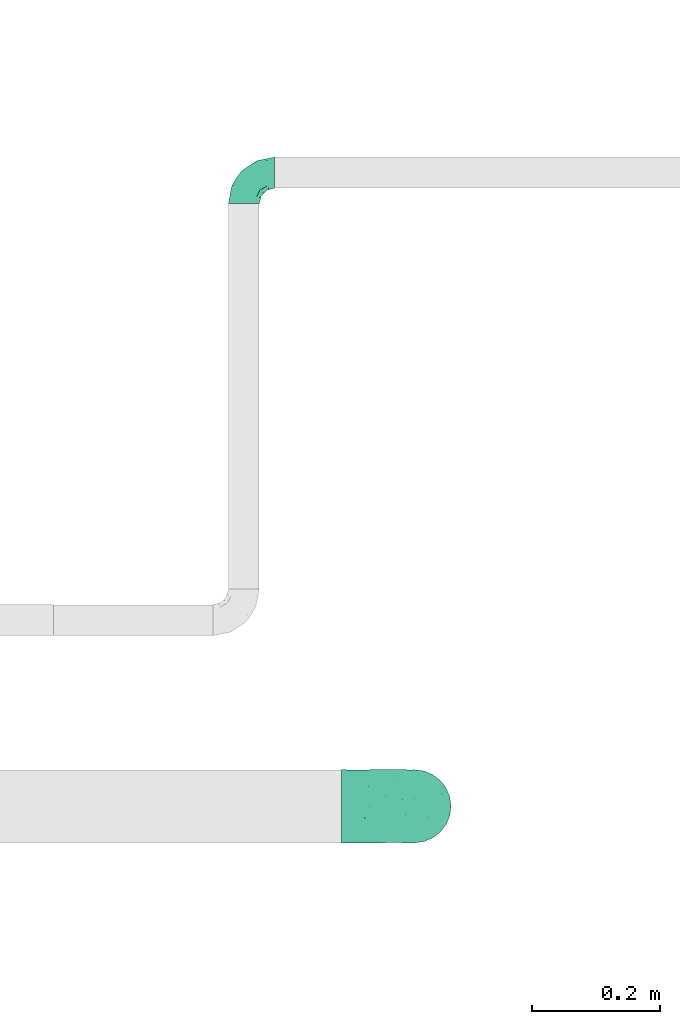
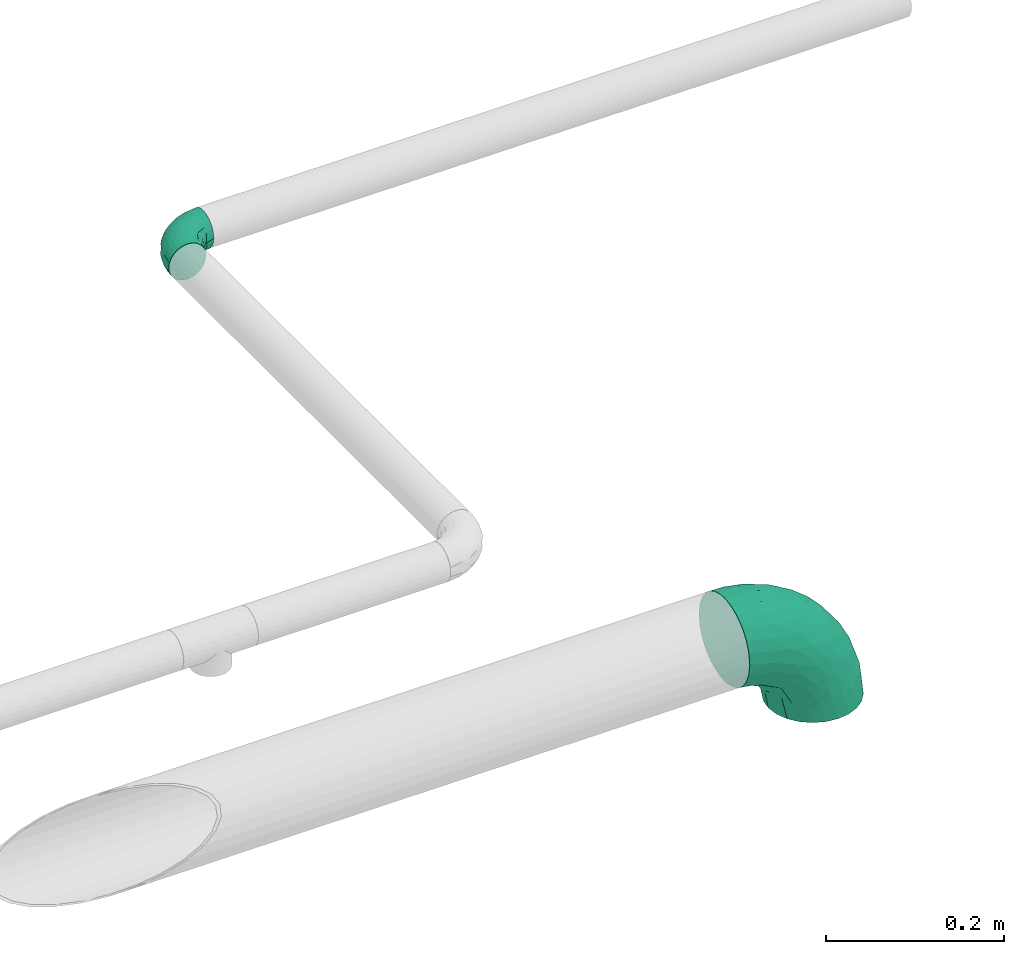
# One storey, part 6 of 94: 2 flow fittings.
"""IFC2X3 building model written with IfcOpenShell, lengths in millimetres."""

from ifc_helpers import new_model, entity, si_unit, converted_unit, derived_unit, direction, frame, origin_with_axes, place, context, subcontext, project, spatial, open_shell, surface_model, source, transform, mapped, type_object, element, save


model = new_model("IFC2X3")

# Units and contexts
model_context = context("Model", 3, precision=0.01, world=frame((0.0, 4.29681676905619e-09, 0.0)), true_north=direction((4.01073788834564e-13, 1.0)))
plan_context = context("Plan", 3, precision=0.01, world=frame((0.0, 4.29681676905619e-09, 0.0)), true_north=direction((4.01073788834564e-13, 1.0)))
body_context = subcontext(model_context, "Body", "Model", "MODEL_VIEW")
ifc_project = project(units=[converted_unit("PLANEANGLEUNIT", "DEGREE", entity("IfcPositiveLengthMeasure", 0.0174532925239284), si_unit("PLANEANGLEUNIT", "RADIAN"), dimensions=[0, 0, 0, 0, 0, 0, 0]), si_unit("AREAUNIT", "SQUARE_METRE"), si_unit("LENGTHUNIT", "METRE", prefix="MILLI"), si_unit("MASSUNIT", "GRAM", prefix="KILO"), si_unit("POWERUNIT", "WATT"), si_unit("PRESSUREUNIT", "PASCAL"), si_unit("FORCEUNIT", "NEWTON", prefix="KILO"), si_unit("ELECTRICCURRENTUNIT", "AMPERE"), si_unit("THERMODYNAMICTEMPERATUREUNIT", "DEGREE_CELSIUS"), si_unit("TIMEUNIT", "SECOND"), si_unit("VOLUMEUNIT", "CUBIC_METRE"), derived_unit("LINEARVELOCITYUNIT", [(si_unit("LENGTHUNIT", "METRE"), 1), (si_unit("TIMEUNIT", "SECOND"), -1)]), derived_unit("VOLUMETRICFLOWRATEUNIT", [(si_unit("VOLUMEUNIT", "CUBIC_METRE"), 1), (si_unit("TIMEUNIT", "SECOND"), -1)]), derived_unit("THERMALTRANSMITTANCEUNIT", [(si_unit("POWERUNIT", "WATT"), 1), (si_unit("THERMODYNAMICTEMPERATUREUNIT", "KELVIN"), -1), (si_unit("AREAUNIT", "SQUARE_METRE"), -1)])], contexts=[model_context, plan_context])

# Site, building, storey
site_placement = place(None, frame((0.0, -4.29681676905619e-09, 0.0), z_axis=(0.0, 0.0, 1.0), x_axis=(1.0, 0.0, 0.0)))
site = spatial("IfcSite", under=ifc_project, at=site_placement, CompositionType="ELEMENT")
building_placement = place(site_placement, frame((0.0, 4.29681676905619e-09, 0.0), z_axis=(0.0, 0.0, 1.0), x_axis=(1.0, 0.0, 0.0)))
building = spatial("IfcBuilding", under=site, at=building_placement, Name="mc-building", CompositionType="ELEMENT")
storey_placement = place(building_placement, frame((0.0, 0.0, 200300.0), z_axis=(0.0, 0.0, 1.0), x_axis=(1.0, 0.0, 0.0)))
storey = spatial("IfcBuildingStorey", under=building, at=storey_placement, Name="Nivå C", CompositionType="ELEMENT", Elevation=200300.0)

# Flow fittings
pipe_fitting_type = type_object("IfcPipeFittingType", Name="magi_pipe_fe_elbow_short_001", PredefinedType="BEND")
shared_shape_1 = source(origin_with_axes(), body_context, "Body", "SurfaceModel", [
    surface_model("IfcShellBasedSurfaceModel", [(-48.4, 6.26342, -23.37541), (-48.4, 0.0, -24.2), (-48.4, 17.11198, -17.11198), (-48.4, 12.1, -20.95781), (-48.4, 23.37541, -6.26342), (-48.4, 20.95781, -12.1), (-48.4, -12.1, -20.95781), (-48.4, -17.11198, -17.11198), (-48.4, -20.95781, -12.1), (-48.4, -6.26342, -23.37541), (-48.4, -23.37541, -6.26342), (-48.4, -24.2, 0.0), (-48.4, -23.37541, 6.26342), (-48.4, 23.37541, 6.26342), (-48.4, 6.26342, 23.37541), (-48.4, 20.95781, 12.1), (-48.4, 17.11198, 17.11198), (-48.4, 12.1, 20.95781), (-48.4, -12.1, 20.95781), (-48.4, -20.95781, 12.1), (-48.4, -17.11198, 17.11198), (-48.4, -6.26342, 23.37541), (-48.4, 0.0, 24.2), (-48.4, 24.2, 0.0), (-17.11198, 48.4, -17.11198), (0.0, 48.4, -24.2), (-6.26342, 48.4, -23.37541), (-12.1, 48.4, -20.95781), (-20.95781, 48.4, -12.1), (-23.37541, 48.4, -6.26342), (12.1, 48.4, -20.95781), (20.95781, 48.4, -12.1), (17.11198, 48.4, -17.11198), (6.26342, 48.4, -23.37541), (23.37541, 48.4, -6.26342), (23.37541, 48.4, 6.26342), (24.2, 48.4, 0.0), (-23.37541, 48.4, 6.26342), (-6.26342, 48.4, 23.37541), (-17.11198, 48.4, 17.11198), (-20.95781, 48.4, 12.1), (-12.1, 48.4, 20.95781), (12.1, 48.4, 20.95781), (17.11198, 48.4, 17.11198), (20.95781, 48.4, 12.1), (0.0, 48.4, 24.2), (6.26342, 48.4, 23.37541), (-24.2, 48.4, 0.0), (-35.50368, -18.80076, 13.58523), (-31.77913, -13.9618, 18.03279), (-34.50859, -21.43683, 0.0), (-21.39243, -15.41147, 12.21413), (-32.16301, -21.12203, 7.54749), (21.12203, 32.16301, 7.54749), (17.07617, 18.95745, 6.20374), (18.67365, 20.61718, 0.0), (-23.65565, 38.62451, 10.51816), (-20.21592, 37.67665, 15.89859), (-35.56981, -9.15108, 21.77256), (-36.96985, -3.20584, 23.78612), (-33.88786, 3.70953, 24.15875), (-8.84062, -10.8048, 0.0), (-18.95745, -17.07617, 6.20374), (-20.61718, -18.67365, 0.0), (-18.69715, -5.87343, 20.10488), (-24.09336, -0.21717, 23.45593), (-2.08262, -4.09091, 10.90396), (-0.40561, 0.49936, 14.45569), (-8.22634, -5.79523, 14.90978), (-37.83027, 20.17367, 15.88169), (-8.41063, 23.79825, 24.15658), (-17.92529, 17.92529, 23.61199), (-14.40991, 10.5752, 24.07534), (-41.86919, 14.6551, 19.71874), (-9.03342, 41.7434, 22.66763), (-3.31671, 36.19978, 24.14056), (-38.63654, 23.65174, 10.51655), (-38.25939, 25.77657, 5.32075), (-30.0475, 30.0475, 9.04616), (-37.30448, 9.49113, 22.86036), (-6.31688, 16.20853, 23.76192), (-12.02449, 4.43954, 22.59792), (-2.47225, 13.07459, 22.23951), (-4.32281, 4.32281, 19.78555), (13.9618, 31.77913, 18.03279), (15.41147, 21.39243, 12.21413), (18.80076, 35.50367, 13.58523), (-25.72741, 16.42033, 22.38358), (-26.59277, 10.36599, 23.76692), (3.20584, 36.96985, 23.78612), (9.15107, 35.56981, 21.77256), (5.87343, 18.69715, 20.10488), (21.43683, 34.50859, 0.0), (-23.74657, 5.93004, 24.18967), (-22.40302, 25.55556, 19.88516), (-33.3245, 16.42738, 20.3789), (-25.47357, 39.04012, 5.19167), (-30.32947, 31.74105, 4.25904), (11.04589, 19.60124, 16.55181), (-27.44219, 36.3, 0.0), (-10.46605, 32.79159, 23.04712), (-13.80953, 25.05111, 23.26361), (-17.54489, 31.27863, 20.33941), (-19.27982, 23.42922, 22.01925), (-14.78447, 40.57947, 19.81913), (-19.60124, -11.04589, 16.55181), (-25.09785, 32.07921, 13.69695), (-25.5093, 27.02629, 17.14196), (-31.08127, 26.00324, 13.49448), (0.21717, 24.09336, 23.45593), (5.51075, 8.40547, 15.32867), (-11.48597, -10.80284, 11.35932), (1.43689, -3.14326, 6.54995), (7.34882, 4.31024, 8.4514), (7.50574, 2.51208, 3.62663), (12.46453, 10.09451, 5.71609), (12.1504, 12.55391, 10.15678), (-36.3, 27.44219, 0.0), (-6.52237, -9.62364, 7.02633), (2.93595, -2.93595, 0.0), (10.8048, 8.84062, 0.0), (-19.60124, -11.04589, -16.55181), (-31.77913, -13.9618, -18.03279), (-18.69715, -5.87343, -20.10488), (-21.39243, -15.41147, -12.21413), (-37.67665, 20.21591, -15.89859), (-40.57947, 14.78447, -19.81913), (-39.04012, 25.47357, -5.19167), (-32.16301, -21.12203, -7.54749), (-30.0475, 30.0475, -9.04616), (-38.62452, 23.65565, -10.51816), (-18.95745, -17.07617, -6.20374), (-23.42922, 19.27982, -22.01926), (-25.05111, 13.80953, -23.26361), (-31.27863, 17.54489, -20.33941), (-14.6551, 41.86919, -19.71874), (-20.17367, 37.83026, -15.88169), (9.15108, 35.56981, -21.77256), (5.87343, 18.69715, -20.10488), (0.21717, 24.09336, -23.45593), (-41.7434, 9.03342, -22.66763), (-35.50368, -18.80076, -13.58523), (-35.56981, -9.15108, -21.77256), (-16.42033, 25.72741, -22.38358), (-9.49113, 37.30447, -22.86036), (-10.36599, 26.59277, -23.76692), (-36.96985, -3.20584, -23.78612), (-23.79826, 8.41063, -24.15658), (-17.92529, 17.92529, -23.61199), (-10.5752, 14.40991, -24.07534), (-36.19978, 3.31671, -24.14056), (-25.77657, 38.25939, -5.32075), (-23.65174, 38.63654, -10.51655), (-32.79159, 10.46605, -23.04712), (-31.74105, 30.32946, -4.25904), (-5.93004, 23.74657, -24.18967), (-25.55556, 22.40302, -19.88516), (-16.42738, 33.3245, -20.3789), (3.20584, 36.96985, -23.78612), (-3.70953, 33.88785, -24.15875), (18.80076, 35.50367, -13.58523), (13.9618, 31.77913, -18.03279), (7.50574, 2.51208, -3.62663), (12.46453, 10.09451, -5.71609), (-16.20853, 6.31688, -23.76192), (-4.43954, 12.02449, -22.59792), (-13.07459, 2.47225, -22.23951), (1.43689, -3.14326, -6.54995), (-6.52237, -9.62364, -7.02632), (-2.08262, -4.09091, -10.90396), (15.41147, 21.39243, -12.21413), (21.12203, 32.16301, -7.54749), (17.07617, 18.95745, -6.20374), (-32.07921, 25.09785, -13.69695), (11.04589, 19.60124, -16.55181), (12.1504, 12.55391, -10.15678), (5.51075, 8.40547, -15.32867), (-27.02629, 25.5093, -17.14196), (-26.00324, 31.08127, -13.49448), (-24.09336, -0.21717, -23.45593), (-4.32281, 4.32281, -19.78555), (-8.22634, -5.79524, -14.90978), (-11.48597, -10.80284, -11.35931), (-0.40561, 0.49936, -14.45569), (7.34882, 4.31024, -8.4514)], [open_shell([[[0, 1, 2]], [[3, 0, 2]], [[4, 5, 2]], [[6, 2, 1]], [[4, 2, 6]], [[7, 8, 6]], [[1, 9, 6]], [[8, 10, 6]], [[6, 10, 4]], [[11, 12, 10]], [[13, 4, 10]], [[14, 13, 10]], [[15, 13, 16]], [[13, 14, 17]], [[16, 13, 17]], [[10, 18, 14]], [[19, 20, 12]], [[20, 10, 12]], [[21, 22, 18]], [[20, 18, 10]], [[18, 22, 14]], [[23, 4, 13]], [[24, 25, 26]], [[24, 26, 27]], [[24, 28, 29]], [[25, 24, 30]], [[30, 24, 29]], [[30, 31, 32]], [[30, 33, 25]], [[30, 34, 31]], [[29, 34, 30]], [[34, 35, 36]], [[34, 29, 37]], [[34, 37, 38]], [[39, 37, 40]], [[41, 38, 37]], [[41, 37, 39]], [[38, 42, 34]], [[35, 43, 44]], [[35, 34, 43]], [[42, 45, 46]], [[34, 42, 43]], [[38, 45, 42]], [[37, 29, 47]], [[20, 48, 49]], [[12, 11, 50]], [[51, 48, 52]], [[53, 54, 55]], [[48, 20, 19]], [[12, 52, 19]], [[40, 56, 57]], [[49, 18, 20]], [[49, 58, 18]], [[22, 59, 60]], [[61, 62, 63]], [[58, 64, 65]], [[66, 67, 68]], [[15, 16, 69]], [[70, 71, 72]], [[17, 73, 16]], [[21, 59, 22]], [[38, 74, 75]], [[22, 60, 14]], [[15, 69, 76]], [[16, 73, 69]], [[23, 13, 77]], [[13, 15, 76]], [[77, 76, 78]], [[14, 79, 17]], [[80, 81, 82]], [[68, 83, 64]], [[84, 43, 42]], [[85, 86, 84]], [[87, 79, 88]], [[18, 58, 21]], [[45, 89, 46]], [[53, 35, 44]], [[45, 38, 75]], [[84, 90, 91]], [[44, 86, 53]], [[92, 35, 53]], [[86, 44, 43]], [[90, 42, 46]], [[53, 55, 92]], [[88, 93, 72]], [[54, 53, 85]], [[87, 94, 95]], [[78, 96, 97]], [[98, 84, 91]], [[99, 96, 47]], [[79, 14, 60]], [[96, 78, 56]], [[62, 52, 63]], [[57, 39, 40]], [[100, 70, 75]], [[101, 102, 103]], [[12, 50, 52]], [[104, 41, 39]], [[74, 38, 41]], [[57, 102, 104]], [[105, 64, 49]], [[90, 84, 42]], [[40, 37, 56]], [[56, 106, 57]], [[102, 57, 107]], [[95, 107, 69]], [[76, 108, 78]], [[100, 101, 70]], [[89, 75, 109]], [[64, 58, 49]], [[63, 52, 50]], [[59, 58, 65]], [[105, 49, 51]], [[64, 83, 81]], [[89, 90, 46]], [[36, 35, 92]], [[109, 82, 91]], [[109, 91, 90]], [[91, 83, 110]], [[111, 68, 105]], [[66, 68, 111]], [[62, 51, 52]], [[66, 112, 113]], [[114, 115, 113]], [[98, 85, 84]], [[52, 48, 19]], [[49, 48, 51]], [[84, 86, 43]], [[53, 86, 85]], [[88, 79, 60]], [[73, 79, 95]], [[96, 56, 37]], [[78, 108, 106]], [[87, 103, 94]], [[100, 74, 104]], [[108, 69, 107]], [[78, 97, 77]], [[88, 72, 71]], [[109, 75, 70]], [[81, 72, 65]], [[70, 72, 80]], [[75, 89, 45]], [[90, 89, 109]], [[58, 59, 21]], [[60, 59, 65]], [[67, 83, 68]], [[110, 113, 116]], [[88, 60, 93]], [[87, 88, 71]], [[103, 87, 71]], [[79, 87, 95]], [[101, 103, 71]], [[94, 103, 102]], [[47, 96, 37]], [[96, 99, 97]], [[99, 117, 97]], [[97, 117, 77]], [[23, 77, 117]], [[13, 76, 77]], [[60, 65, 93]], [[65, 72, 93]], [[70, 101, 71]], [[102, 101, 100]], [[69, 108, 76]], [[106, 108, 107]], [[57, 106, 107]], [[78, 106, 56]], [[57, 104, 39]], [[100, 104, 102]], [[102, 107, 94]], [[95, 94, 107]], [[64, 81, 65]], [[82, 81, 83]], [[91, 82, 83]], [[80, 82, 109]], [[70, 80, 109]], [[81, 80, 72]], [[79, 73, 17]], [[69, 73, 95]], [[104, 74, 41]], [[75, 74, 100]], [[62, 61, 118]], [[111, 62, 118]], [[113, 115, 116]], [[119, 118, 61]], [[111, 105, 51]], [[113, 112, 114]], [[120, 55, 54]], [[68, 64, 105]], [[91, 110, 98]], [[116, 98, 110]], [[62, 111, 51]], [[66, 111, 118]], [[112, 66, 118]], [[67, 113, 110]], [[118, 119, 112]], [[114, 112, 119]], [[119, 120, 114]], [[115, 120, 54]], [[120, 115, 114]], [[116, 54, 85]], [[54, 116, 115]], [[116, 85, 98]], [[113, 67, 66]], [[83, 67, 110]], [[121, 122, 123]], [[122, 121, 124]], [[5, 125, 2]], [[2, 126, 3]], [[117, 127, 23]], [[50, 10, 128]], [[127, 129, 130]], [[128, 131, 63]], [[132, 133, 134]], [[24, 135, 136]], [[137, 138, 139]], [[3, 140, 0]], [[128, 8, 141]], [[142, 6, 9]], [[128, 63, 50]], [[5, 4, 130]], [[8, 7, 141]], [[143, 144, 145]], [[146, 9, 1]], [[147, 148, 149]], [[8, 128, 10]], [[124, 141, 122]], [[150, 1, 0]], [[151, 152, 129]], [[125, 134, 126]], [[153, 147, 150]], [[127, 154, 129]], [[145, 155, 149]], [[47, 29, 151]], [[143, 156, 157]], [[152, 29, 28]], [[25, 158, 159]], [[122, 7, 6]], [[24, 27, 135]], [[144, 27, 26]], [[32, 160, 161]], [[25, 33, 158]], [[120, 162, 163]], [[130, 125, 5]], [[24, 136, 28]], [[0, 140, 150]], [[30, 161, 137]], [[142, 122, 6]], [[25, 159, 26]], [[164, 165, 166]], [[167, 168, 169]], [[31, 160, 32]], [[161, 30, 32]], [[170, 160, 171]], [[131, 128, 124]], [[36, 92, 34]], [[34, 92, 171]], [[172, 171, 55]], [[34, 171, 31]], [[144, 26, 159]], [[130, 173, 125]], [[174, 175, 176]], [[136, 152, 28]], [[30, 137, 33]], [[122, 142, 123]], [[134, 125, 177]], [[157, 177, 136]], [[152, 178, 129]], [[153, 133, 147]], [[146, 150, 179]], [[146, 142, 9]], [[11, 10, 50]], [[179, 166, 123]], [[179, 123, 142]], [[123, 180, 181]], [[138, 137, 161]], [[55, 171, 92]], [[158, 137, 139]], [[174, 161, 170]], [[138, 180, 165]], [[180, 138, 176]], [[124, 121, 182]], [[176, 183, 180]], [[61, 131, 168]], [[169, 168, 182]], [[172, 170, 171]], [[122, 141, 7]], [[128, 141, 124]], [[171, 160, 31]], [[161, 160, 170]], [[145, 144, 159]], [[135, 144, 157]], [[127, 130, 4]], [[129, 178, 173]], [[143, 132, 156]], [[153, 140, 126]], [[178, 136, 177]], [[129, 154, 151]], [[145, 149, 148]], [[179, 150, 147]], [[165, 149, 139]], [[147, 149, 164]], [[150, 146, 1]], [[142, 146, 179]], [[137, 158, 33]], [[159, 158, 139]], [[174, 138, 161]], [[184, 169, 183]], [[145, 159, 155]], [[143, 145, 148]], [[132, 143, 148]], [[144, 143, 157]], [[133, 132, 148]], [[156, 132, 134]], [[23, 127, 4]], [[127, 117, 154]], [[117, 99, 154]], [[154, 99, 151]], [[47, 151, 99]], [[29, 152, 151]], [[159, 139, 155]], [[139, 149, 155]], [[147, 133, 148]], [[134, 133, 153]], [[136, 178, 152]], [[173, 178, 177]], [[125, 173, 177]], [[129, 173, 130]], [[125, 126, 2]], [[153, 126, 134]], [[134, 177, 156]], [[157, 156, 177]], [[138, 165, 139]], [[166, 165, 180]], [[123, 166, 180]], [[164, 166, 179]], [[147, 164, 179]], [[165, 164, 149]], [[144, 135, 27]], [[136, 135, 157]], [[126, 140, 3]], [[150, 140, 153]], [[182, 131, 124]], [[168, 119, 61]], [[119, 167, 162]], [[63, 131, 61]], [[172, 163, 175]], [[172, 55, 120]], [[123, 181, 121]], [[182, 121, 181]], [[175, 174, 170]], [[176, 138, 174]], [[169, 182, 181]], [[131, 182, 168]], [[183, 169, 181]], [[167, 169, 184]], [[162, 167, 184]], [[119, 168, 167]], [[163, 162, 184]], [[120, 119, 162]], [[175, 163, 184]], [[120, 163, 172]], [[176, 175, 184]], [[172, 175, 170]], [[180, 183, 181]], [[184, 183, 176]]])]),
])
flow_fitting_1_placement = place(storey_placement, frame((531141.18385, 407003.74497, 2850.0), z_axis=(0.0, 0.0, 1.0), x_axis=(-1.0, 0.0, 0.0)))
element("IfcFlowFitting", 1, at=flow_fitting_1_placement, inside=storey, type_object=pipe_fitting_type, Name="magi_pipe_fe_elbow_short_001", context=body_context, shape_type="MappedRepresentation", body=[
    mapped(shared_shape_1, transform((0.0, 0.0, 0.0), scale=1.0)),
])
shared_shape_2 = source(origin_with_axes(), body_context, "Body", "SurfaceModel", [
    surface_model("IfcShellBasedSurfaceModel", [(-114.4, 28.6, -49.53665), (-114.4, 14.80445, -55.25096), (-114.4, 40.44651, -40.44651), (-114.4, 55.25096, -14.80445), (-114.4, 49.53665, -28.6), (-114.4, -28.6, -49.53665), (-114.4, -40.44651, -40.44651), (-114.4, -14.80445, -55.25096), (-114.4, -49.53665, -28.6), (-114.4, 14.80445, 55.25096), (-114.4, 28.6, 49.53665), (-114.4, 40.44651, 40.44651), (-114.4, -14.80445, 55.25096), (-114.4, 0.0, 57.2), (-114.4, -28.6, 49.53665), (-114.4, 0.0, -57.2), (-114.4, -57.2, 0.0), (-114.4, -55.25096, 14.80445), (-114.4, -55.25096, -14.80445), (-114.4, 55.25096, 14.80445), (-114.4, 49.53665, 28.6), (-114.4, -49.53665, 28.6), (-114.4, -40.44651, 40.44651), (-114.4, 57.2, 0.0), (-55.25096, 114.4, -14.80445), (0.0, 114.4, -57.2), (-14.80445, 114.4, -55.25096), (-40.44651, 114.4, -40.44651), (-28.6, 114.4, -49.53665), (-49.53665, 114.4, -28.6), (14.80445, 114.4, -55.25096), (40.44651, 114.4, -40.44651), (28.6, 114.4, -49.53665), (49.53665, 114.4, -28.6), (55.25096, 114.4, -14.80445), (55.25096, 114.4, 14.80445), (57.2, 114.4, 0.0), (-57.2, 114.4, 0.0), (-14.80445, 114.4, 55.25096), (-55.25096, 114.4, 14.80445), (-49.53665, 114.4, 28.6), (-40.44651, 114.4, 40.44651), (-28.6, 114.4, 49.53665), (0.0, 114.4, 57.2), (40.44651, 114.4, 40.44651), (49.53665, 114.4, 28.6), (28.6, 114.4, 49.53665), (14.80445, 114.4, 55.25096), (-84.09593, -44.4609, 32.12695), (-78.31406, -50.35834, 18.09064), (-69.98665, -51.35287, 0.0), (-86.12558, -53.4776, 0.0), (26.94956, 24.61896, 21.38398), (23.80365, 28.9282, 30.95802), (13.45254, 9.10514, 25.44273), (25.9081, 46.58786, 39.43223), (13.7887, 44.17442, 47.56969), (11.34962, 21.0489, 38.60008), (-84.01314, -21.62253, 51.45941), (-44.17442, -13.7887, 47.56969), (-56.94795, -0.51331, 55.44129), (32.95049, 74.83723, 42.6022), (-74.83723, -32.95049, 42.6022), (-42.18394, -39.22352, 14.42655), (-49.29333, -42.78141, 0.0), (-28.6, -34.20996, 0.0), (-58.45256, 98.94035, 9.79038), (-66.4917, 80.68838, 12.49108), (-53.86806, 99.27813, 23.81237), (-98.96354, 34.63934, 46.60793), (-89.417, 47.68321, 37.53853), (-78.75499, 65.06315, 20.1487), (-69.82753, 67.46423, 28.36371), (-19.87966, 56.25042, 57.09737), (-42.36887, 42.36887, 55.81016), (-34.05979, 24.99593, 56.90536), (-87.38329, -7.57744, 56.22174), (-21.35173, 98.66622, 53.57802), (-7.8395, 85.56313, 57.05951), (-80.09857, 8.76799, 57.10251), (-83.13978, 56.87572, 29.62494), (-95.78145, 56.41971, 20.22865), (-4.03731, -9.15242, 25.37061), (-0.31511, 1.93743, 34.27014), (-19.64541, -13.64401, 35.44878), (-99.46039, 58.3547, 9.54675), (-81.27929, 66.79656, 9.48548), (-15.40877, -22.34715, 17.62592), (-22.36541, -22.21366, 27.19261), (-73.95349, 73.95349, 0.0), (-92.51051, 61.55409, 0.0), (-88.17421, 22.43358, 54.03359), (-14.9308, 38.31107, 56.16455), (-28.42151, 10.49345, 53.41327), (-5.8435, 30.90358, 52.5661), (-10.21756, 10.21755, 46.76585), (42.78141, 49.29333, 0.0), (39.22352, 42.18394, 14.42655), (34.20996, 28.6, 0.0), (44.4609, 84.09592, 32.12695), (36.19253, 49.91251, 28.8024), (50.35834, 78.31406, 18.09064), (-49.91251, -36.19253, 28.8024), (7.57744, 87.38329, 56.22174), (-60.81025, 38.81169, 52.90665), (-62.85564, 24.50144, 56.17637), (-56.12825, 14.01645, 57.17559), (53.4776, 86.12558, 0.0), (-46.75202, 73.27275, 45.06221), (-46.9952, 92.15035, 37.23874), (-60.2947, 63.88032, 40.51735), (-24.73794, 77.5074, 54.475), (-61.55409, 92.51051, 0.0), (-36.14627, 88.5894, 47.41169), (-43.26537, 61.83435, 50.97453), (21.62253, 84.01314, 51.45941), (-46.00205, -25.9418, 39.12939), (51.35287, 69.98665, 0.0), (-61.09042, 51.32771, 47.53469), (-78.767, 38.82835, 48.1683), (-33.31996, 59.37645, 54.79482), (0.51331, 56.94795, 55.44129), (5.79077, -5.18269, 15.19079), (-10.83024, -20.57474, 0.0), (6.93952, -6.93952, 0.0), (23.49511, 14.39974, 11.94799), (-59.03888, 80.99895, 28.23898), (20.57474, 10.83024, 0.0), (-83.04443, 37.50478, -47.83872), (-46.7296, -14.43559, -47.98954), (-49.66925, -0.71351, -54.4039), (-22.98222, -0.95718, -46.86946), (-90.55199, 7.23257, -57.01383), (-54.75453, -42.94222, -19.23712), (-83.44606, -51.20699, -18.64769), (-71.87032, -42.41832, -30.98153), (-88.01588, 22.45879, -54.04029), (-98.18309, 58.60159, -10.14716), (-35.90195, 89.79916, -47.31841), (-23.34952, 83.22029, -54.2411), (-80.26787, 66.2254, -14.3937), (19.74031, 72.43815, -50.87234), (22.54998, 96.60498, -52.05852), (34.17345, 82.75348, -43.18686), (-90.43853, 47.41296, -37.42627), (-68.98462, 52.41771, -43.14017), (11.06584, -0.7936, -12.00107), (27.03813, 18.93136, -10.41988), (-96.3016, -45.5344, -33.23337), (-52.97553, 66.48107, -44.04492), (-52.86453, 52.86452, -50.22362), (-28.87984, -29.47599, -21.57809), (-3.55846, -9.07581, -24.83342), (-7.95171, -18.66805, -11.6242), (-82.75348, -34.17345, -43.18686), (-17.0405, -11.44162, -35.68108), (4.58756, 9.16491, -36.00386), (2.40801, 26.86922, -47.70218), (23.33331, 42.70851, -40.01405), (7.21222, 84.27391, -56.15415), (51.20699, 83.44606, -18.64769), (-96.60498, -22.54998, -52.05852), (-42.70851, -23.33331, -40.01405), (-32.66648, -25.63204, -31.50784), (-62.42537, -26.11783, -44.91241), (-72.43815, -19.74031, -50.87234), (-84.27391, -7.21222, -56.15415), (-40.73478, 69.943, -49.6748), (30.94592, 38.60137, -28.62302), (42.41832, 71.87032, -30.98153), (40.14472, 45.8091, -16.78391), (-61.46613, 86.51054, -17.15009), (-69.51015, 68.0086, -28.05795), (0.71351, 49.66925, -54.4039), (11.82215, 48.83229, -49.96982), (-20.19298, 20.19298, -54.01217), (-49.4829, 83.72871, -38.16953), (-53.76637, 92.94659, -27.63224), (-7.23257, 90.55199, -57.01383), (45.5344, 96.3016, -33.23337), (-13.52193, 63.0147, -57.18765), (-30.92964, 33.3773, -57.16753), (-33.84558, 54.22558, -55.4975), (19.59603, 14.03839, -21.47962), (-56.47488, 33.10259, -55.31134), (-92.36856, 55.57393, -24.7177), (-35.50893, -36.67608, -11.48997), (-63.01471, 13.52193, -57.18765), (-63.79002, 64.78214, -37.11384)], [open_shell([[[0, 1, 2]], [[3, 4, 2]], [[1, 3, 2]], [[5, 6, 7]], [[8, 7, 6]], [[9, 10, 11]], [[12, 13, 14]], [[1, 15, 3]], [[7, 3, 15]], [[16, 17, 18]], [[7, 8, 17]], [[17, 8, 18]], [[3, 7, 19]], [[19, 7, 17]], [[20, 19, 9]], [[20, 9, 11]], [[9, 19, 17]], [[21, 22, 17]], [[14, 17, 22]], [[9, 17, 14]], [[14, 13, 9]], [[23, 3, 19]], [[24, 25, 26]], [[27, 26, 28]], [[27, 29, 24]], [[27, 24, 26]], [[25, 24, 30]], [[30, 31, 32]], [[31, 30, 33]], [[34, 35, 36]], [[33, 30, 24]], [[34, 33, 35]], [[33, 24, 37]], [[38, 37, 39]], [[38, 39, 40]], [[41, 42, 38]], [[41, 38, 40]], [[37, 38, 43]], [[35, 44, 45]], [[44, 35, 46]], [[46, 43, 47]], [[46, 35, 37]], [[37, 43, 46]], [[37, 35, 33]], [[48, 21, 49]], [[50, 49, 51]], [[52, 53, 54]], [[49, 21, 17]], [[17, 51, 49]], [[55, 56, 57]], [[22, 21, 48]], [[58, 59, 60]], [[61, 44, 46]], [[62, 14, 22]], [[62, 58, 14]], [[63, 64, 65]], [[66, 67, 68]], [[11, 69, 70]], [[67, 71, 72]], [[20, 11, 70]], [[73, 74, 75]], [[10, 69, 11]], [[12, 76, 13]], [[38, 77, 78]], [[13, 79, 9]], [[80, 81, 20]], [[82, 83, 84]], [[23, 19, 85]], [[71, 86, 85]], [[87, 82, 88]], [[89, 90, 86]], [[91, 9, 79]], [[9, 91, 10]], [[92, 93, 94]], [[95, 59, 84]], [[71, 85, 81]], [[96, 97, 98]], [[45, 44, 99]], [[100, 101, 99]], [[87, 88, 63]], [[48, 102, 62]], [[47, 43, 103]], [[104, 91, 105]], [[101, 35, 45]], [[39, 68, 40]], [[99, 101, 45]], [[105, 106, 75]], [[101, 107, 35]], [[49, 50, 64]], [[108, 109, 110]], [[111, 73, 78]], [[86, 67, 89]], [[13, 76, 79]], [[112, 66, 37]], [[42, 41, 113]], [[89, 67, 112]], [[80, 72, 71]], [[113, 111, 77]], [[114, 111, 113]], [[40, 68, 109]], [[115, 46, 47]], [[14, 58, 12]], [[61, 115, 56]], [[42, 77, 38]], [[43, 38, 78]], [[116, 59, 62]], [[66, 112, 67]], [[61, 46, 115]], [[101, 96, 117]], [[108, 118, 114]], [[118, 70, 119]], [[81, 80, 71]], [[109, 41, 40]], [[111, 114, 120]], [[111, 120, 73]], [[103, 78, 121]], [[59, 58, 62]], [[76, 58, 60]], [[116, 62, 102]], [[59, 95, 93]], [[103, 115, 47]], [[121, 94, 56]], [[121, 56, 115]], [[56, 95, 57]], [[105, 91, 79]], [[69, 91, 119]], [[102, 48, 49]], [[62, 22, 48]], [[44, 61, 99]], [[100, 99, 61]], [[122, 123, 124]], [[87, 122, 82]], [[87, 63, 65]], [[98, 97, 125]], [[122, 124, 125]], [[56, 55, 61]], [[85, 86, 90]], [[67, 86, 71]], [[23, 85, 90]], [[85, 19, 81]], [[19, 20, 81]], [[80, 20, 70]], [[70, 110, 80]], [[72, 110, 126]], [[113, 108, 114]], [[104, 118, 119]], [[105, 75, 74]], [[121, 78, 73]], [[93, 75, 60]], [[73, 75, 92]], [[78, 103, 43]], [[115, 103, 121]], [[58, 76, 12]], [[79, 76, 60]], [[110, 109, 126]], [[113, 41, 109]], [[105, 79, 106]], [[104, 105, 74]], [[114, 104, 74]], [[91, 104, 119]], [[114, 118, 104]], [[70, 118, 110]], [[79, 60, 106]], [[60, 75, 106]], [[110, 72, 80]], [[67, 72, 126]], [[83, 95, 84]], [[53, 57, 54]], [[53, 55, 57]], [[100, 61, 55]], [[59, 93, 60]], [[94, 93, 95]], [[56, 94, 95]], [[92, 94, 121]], [[73, 92, 121]], [[93, 92, 75]], [[68, 67, 126]], [[37, 66, 39]], [[17, 16, 51]], [[107, 101, 117]], [[107, 36, 35]], [[64, 63, 49]], [[49, 63, 102]], [[97, 101, 100]], [[101, 97, 96]], [[100, 53, 52]], [[122, 125, 54]], [[125, 124, 127]], [[82, 122, 54]], [[87, 123, 122]], [[83, 54, 57]], [[88, 82, 84]], [[116, 88, 84]], [[63, 88, 102]], [[54, 83, 82]], [[95, 83, 57]], [[91, 69, 10]], [[70, 69, 119]], [[113, 77, 42]], [[78, 77, 111]], [[66, 68, 39]], [[109, 68, 126]], [[88, 116, 102]], [[84, 59, 116]], [[87, 65, 123]], [[114, 74, 120]], [[73, 120, 74]], [[109, 108, 113]], [[118, 108, 110]], [[54, 125, 52]], [[55, 53, 100]], [[125, 97, 52]], [[100, 52, 97]], [[127, 98, 125]], [[2, 128, 0]], [[129, 130, 131]], [[15, 1, 132]], [[133, 134, 135]], [[0, 136, 1]], [[136, 0, 128]], [[90, 137, 23]], [[138, 28, 139]], [[90, 140, 137]], [[141, 142, 143]], [[144, 145, 128]], [[146, 147, 127]], [[26, 139, 28]], [[128, 2, 144]], [[134, 8, 148]], [[145, 149, 150]], [[134, 51, 18]], [[151, 152, 153]], [[154, 6, 5]], [[152, 155, 156]], [[156, 157, 158]], [[30, 159, 25]], [[160, 33, 34]], [[6, 148, 8]], [[5, 161, 154]], [[162, 163, 135]], [[135, 154, 164]], [[161, 5, 7]], [[165, 166, 130]], [[149, 167, 150]], [[89, 140, 90]], [[168, 169, 170]], [[171, 172, 140]], [[157, 173, 174]], [[24, 171, 37]], [[157, 175, 173]], [[166, 7, 15]], [[176, 177, 29]], [[172, 171, 177]], [[32, 31, 143]], [[25, 178, 26]], [[26, 178, 139]], [[179, 31, 33]], [[27, 28, 138]], [[29, 27, 176]], [[159, 30, 142]], [[161, 166, 165]], [[180, 181, 182]], [[171, 89, 112]], [[169, 160, 170]], [[152, 163, 155]], [[142, 30, 32]], [[143, 158, 141]], [[156, 168, 183]], [[160, 107, 117]], [[182, 139, 180]], [[184, 136, 128]], [[160, 169, 179]], [[8, 134, 18]], [[180, 159, 173]], [[144, 185, 172]], [[171, 112, 37]], [[149, 138, 167]], [[185, 3, 137]], [[153, 65, 186]], [[2, 4, 144]], [[179, 143, 31]], [[158, 143, 169]], [[173, 159, 141]], [[178, 159, 180]], [[174, 158, 157]], [[173, 175, 181]], [[160, 34, 107]], [[170, 117, 96]], [[147, 170, 98]], [[168, 170, 183]], [[165, 129, 164]], [[148, 154, 135]], [[132, 166, 15]], [[187, 181, 130]], [[187, 130, 166]], [[130, 175, 131]], [[135, 163, 133]], [[34, 36, 107]], [[171, 140, 89]], [[177, 24, 29]], [[185, 4, 3]], [[128, 145, 150]], [[184, 128, 150]], [[132, 136, 187]], [[139, 182, 167]], [[176, 27, 138]], [[158, 168, 156]], [[131, 175, 157]], [[152, 156, 183]], [[156, 155, 131]], [[156, 131, 157]], [[131, 162, 129]], [[172, 185, 140]], [[144, 4, 185]], [[136, 132, 1]], [[166, 132, 187]], [[159, 178, 25]], [[139, 178, 180]], [[180, 173, 181]], [[184, 150, 182]], [[130, 181, 175]], [[184, 181, 187]], [[181, 184, 182]], [[136, 184, 187]], [[172, 188, 144]], [[188, 176, 149]], [[151, 186, 133]], [[64, 133, 186]], [[153, 146, 124]], [[155, 163, 162]], [[146, 152, 183]], [[153, 123, 65]], [[188, 149, 145]], [[138, 149, 176]], [[139, 167, 138]], [[182, 150, 167]], [[144, 188, 145]], [[176, 188, 172]], [[163, 152, 151]], [[131, 155, 162]], [[152, 146, 153]], [[147, 146, 183]], [[170, 147, 183]], [[127, 124, 146]], [[147, 98, 127]], [[153, 186, 151]], [[64, 50, 133]], [[186, 65, 64]], [[50, 134, 133]], [[163, 151, 133]], [[51, 134, 50]], [[51, 16, 18]], [[185, 137, 140]], [[23, 137, 3]], [[143, 142, 32]], [[159, 142, 141]], [[160, 179, 33]], [[143, 179, 169]], [[166, 161, 7]], [[154, 161, 165]], [[154, 148, 6]], [[134, 148, 135]], [[117, 170, 160]], [[96, 98, 170]], [[169, 168, 158]], [[172, 177, 176]], [[24, 177, 171]], [[173, 141, 174]], [[158, 174, 141]], [[164, 129, 162]], [[130, 129, 165]], [[135, 164, 162]], [[165, 164, 154]], [[153, 124, 123]]])]),
])
flow_fitting_2_placement = place(storey_placement, frame((531408.1323, 406012.65154, 2850.0), z_axis=(0.0, -1.0, 0.0), x_axis=(0.0, 0.0, 1.0)))
element("IfcFlowFitting", 2, at=flow_fitting_2_placement, inside=storey, type_object=pipe_fitting_type, Name="magi_pipe_fe_elbow_short_001", context=body_context, shape_type="MappedRepresentation", body=[
    mapped(shared_shape_2, transform((0.0, 0.0, 0.0), scale=1.0)),
])

save(model, "model.ifc")
